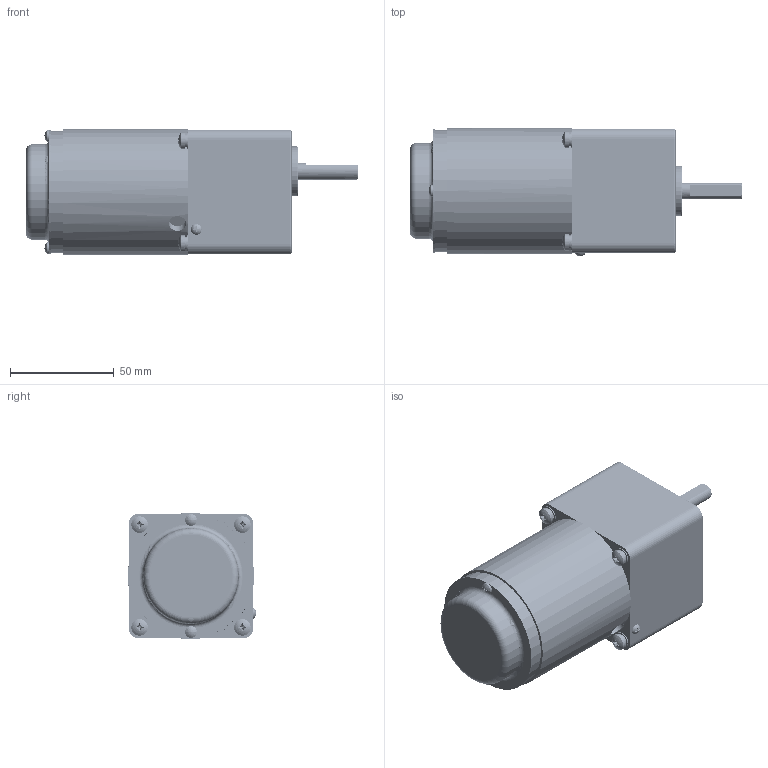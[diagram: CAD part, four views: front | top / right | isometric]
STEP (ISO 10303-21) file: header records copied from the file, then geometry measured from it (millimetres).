
FILE_DESCRIPTION(/* description */ (''),/* implementation_level */ '2;1');
FILE_NAME(/* name */ '60高箱L-6W调速.stp',/* time_stamp */ '2022-10-31T08:27:53+08:00',/* author */ (''),/* organization */ (''),/* preprocessor_version */ 'ST-DEVELOPER v16.7',/* originating_system */ 'SIEMENS PLM Software NX 1899',/* authorisation */ '');
FILE_SCHEMA (('AP203_CONFIGURATION_CONTROLLED_3D_DESIGN_OF_MECHANICAL_PARTS_AND_ASSEMBLIES_MIM_LF { 1 0 10303 403 2 1 2}'));
Products named in the file (1): yf186188FEB6lc15
Bounding box: 160 x 61.99 x 61 mm (x, y, z)
Volume: 378710.8 mm3; surface area: 49024.3 mm2
Topology: 16 solids, 18 shells, 321 faces, 776 edges, 509 vertices
Faces by surface type: plane 139, bspline 92, cylinder 67, torus 16, sphere 6, cone 1
Full cylindrical faces by diameter (mm): 3 x1, 3.838 x4, 4 x4, 4.3 x4, 5.6 x2, 6 x5, 8 x9, 8.2 x1, 24 x1, 30 x1, 46 x1, 52.6 x1, 57 x2, 58.5 x1, 59.5 x1, 61 x1
Entity records: 77756 total; most frequent: CARTESIAN_POINT 70959, ORIENTED_EDGE 1396, DIRECTION 1056, EDGE_CURVE 698, VERTEX_POINT 491, AXIS2_PLACEMENT_3D 438, EDGE_LOOP 421, ADVANCED_FACE 321
